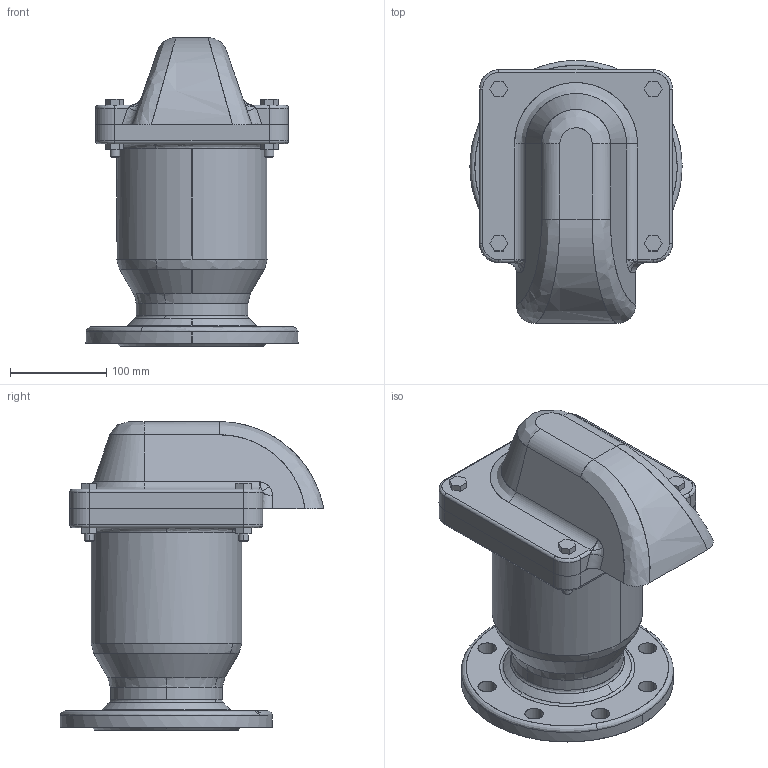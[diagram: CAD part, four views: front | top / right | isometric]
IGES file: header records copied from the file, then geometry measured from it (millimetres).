
Start section: SolidWorks IGES file using analytic representation for surfaces
Global section: file name: C:\Users\Administrator\Desktop\temp\0.IGS; native system: SolidWorks 2015; preprocessor: SolidWorks 2015; author: Administrator; date: 170528.100735; units: millimetre
Bounding box: 220 x 273.17 x 320 mm (x, y, z)
Surface area: 807122.7 mm2 (no closed solid volume)
Topology: 0 solids, 0 shells, 309 faces, 4922 edges, 4910 vertices
Faces by surface type: bspline 180, revolution 129
